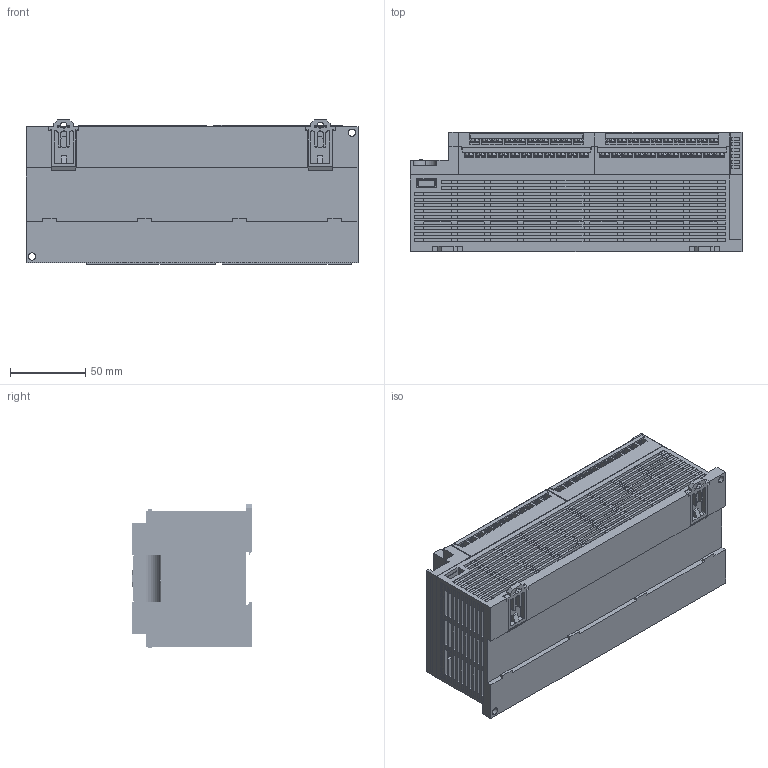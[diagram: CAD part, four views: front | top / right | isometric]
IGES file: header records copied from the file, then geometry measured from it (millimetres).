
Global section: preprocessor: SolidWorks 2010; date: 120213.170518; units: millimetre
Bounding box: 220 x 79.02 x 95.5 mm (x, y, z)
Surface area: 162683.7 mm2 (no closed solid volume)
Topology: 0 solids, 0 shells, 4943 faces, 38548 edges, 38548 vertices
Faces by surface type: bspline 4556, revolution 387
